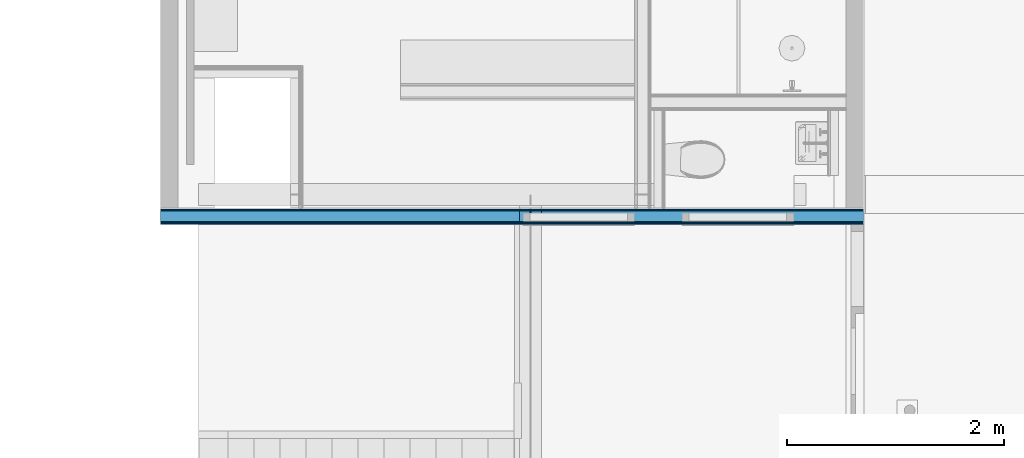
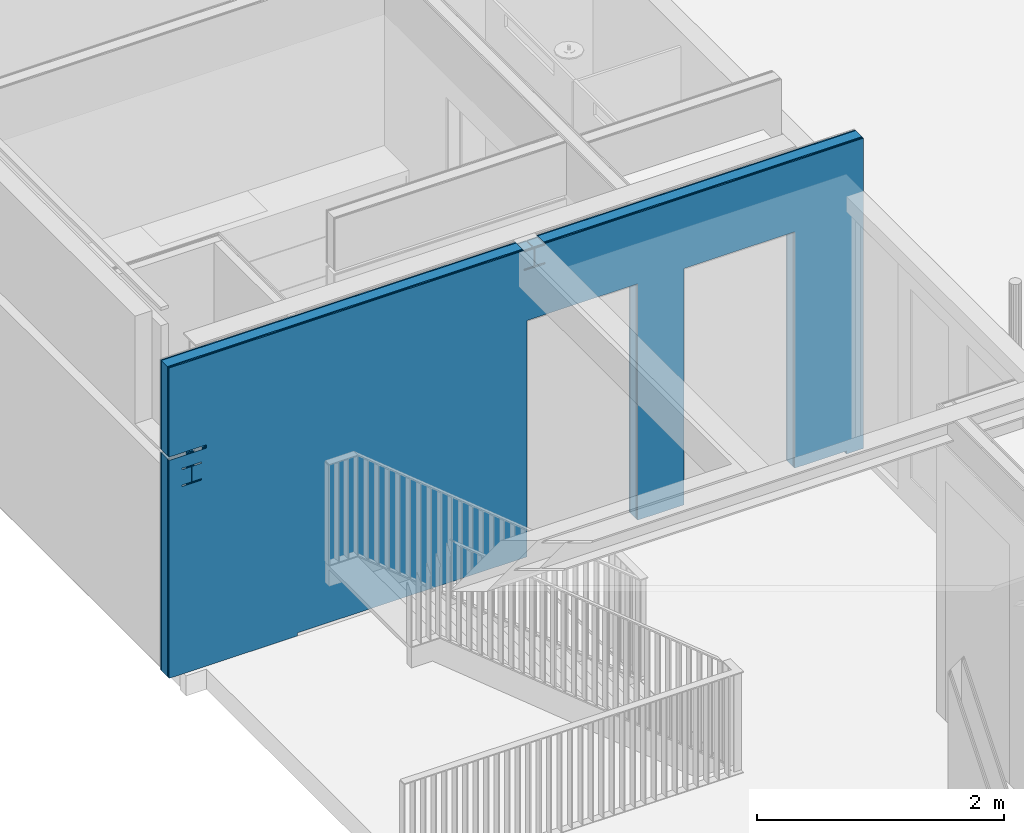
# One storey, part 18 of 35: 4 building element parts, 2 openings, 1 element without a shape of its own.
"""IFC2X3 building model written with IfcOpenShell, lengths in millimetres."""

import ifcopenshell
import ifcopenshell.guid

model = None  # the IFC model being written
_history = None  # IfcOwnerHistory: only IFC2X3 demands one
_inside = {}  # id of a spatial element -> (the spatial element, [elements in it])
_under = {}  # id of a project, library or spatial element -> (it, [spatial elements below it])
_declared = {}  # id of a project -> (the project, [libraries it declares])
_typed = {}  # id of a type object -> (the type object, [elements of that type])
_made_of = {}  # id of a material, layer set ... -> (it, [elements and type objects made of it])


def new_model(schema):
    """Start an empty IFC model of exactly this schema.

    Asked for "IFC4X3", IfcOpenShell would pick the latest addendum, in which some entities
    have other attributes; the version numbers below select the first issue.
    IFC2X3 requires an IfcOwnerHistory on every rooted entity: one is made here for all.
    """
    global model, _history
    if schema == "IFC4X3":
        model = ifcopenshell.file(schema_version=(4, 3, 0, 0))
    else:
        model = ifcopenshell.file(schema=schema)
    _inside.clear()
    _under.clear()
    _declared.clear()
    _typed.clear()
    _made_of.clear()
    _history = None
    if model.schema == "IFC2X3":
        org = make("IfcOrganization", Name="unknown")
        user = make(
            "IfcPersonAndOrganization",
            ThePerson=make("IfcPerson", FamilyName="unknown"),
            TheOrganization=org,
        )
        app = make(
            "IfcApplication",
            ApplicationDeveloper=org,
            Version="unknown",
            ApplicationFullName="unknown",
            ApplicationIdentifier="unknown",
        )
        _history = make(
            "IfcOwnerHistory",
            OwningUser=user,
            OwningApplication=app,
            ChangeAction="ADDED",
            CreationDate=0,
        )
    return model


def make(cls, **values):
    """One entity of the class cls with the attributes given. An attribute that is None is left unset."""
    return model.create_entity(
        cls, **{name: value for name, value in values.items() if value is not None}
    )


def entity(cls, *values):
    """Any entity or typed value of the class cls, its attributes in the order of the schema. None: left unset."""
    e = model.create_entity(cls)
    for i, value in enumerate(values):
        if value is not None:
            e[i] = value
    return e


def rooted(cls, **values):
    """An entity with a GlobalId (a new one), such as an element, a storey or a relation."""
    return make(cls, GlobalId=ifcopenshell.guid.new(), OwnerHistory=_history, **values)


def si_unit(unit_type, name, prefix=None):
    """IfcSIUnit, for example si_unit("LENGTHUNIT", "METRE", prefix="MILLI")."""
    return make("IfcSIUnit", UnitType=unit_type, Prefix=prefix, Name=name)


def converted_unit(unit_type, name, factor, base, dimensions=None, offset=None):
    """IfcConversionBasedUnit, such as the inch: factor (a typed value) times the base unit."""
    return make(
        "IfcConversionBasedUnit"
        if offset is None
        else "IfcConversionBasedUnitWithOffset",
        ConversionOffset=offset,
        Dimensions=None
        if dimensions is None
        else entity("IfcDimensionalExponents", *dimensions),
        UnitType=unit_type,
        Name=name,
        ConversionFactor=make(
            "IfcMeasureWithUnit", ValueComponent=factor, UnitComponent=base
        ),
    )


def derived_unit(unit_type, elements):
    """IfcDerivedUnit: a product of units, each with its exponent."""
    return make(
        "IfcDerivedUnit",
        Elements=[
            make("IfcDerivedUnitElement", Unit=unit, Exponent=power)
            for unit, power in elements
        ],
        UnitType=unit_type,
    )


def money_unit(currency):
    """IfcMonetaryUnit."""
    return make("IfcMonetaryUnit", Currency=currency)


def assignment(units):
    """IfcUnitAssignment: the units of a project."""
    return None if units is None else make("IfcUnitAssignment", Units=units)


def point(xyz):
    """IfcCartesianPoint."""
    return None if xyz is None else make("IfcCartesianPoint", Coordinates=xyz)


def direction(xyz):
    """IfcDirection."""
    return None if xyz is None else make("IfcDirection", DirectionRatios=xyz)


def frame(location, z_axis=None, x_axis=None):
    """IfcAxis2Placement3D, a coordinate frame: its origin and axes. An axis left out is left unset."""
    return make(
        "IfcAxis2Placement3D",
        Location=point(location),
        Axis=direction(z_axis),
        RefDirection=direction(x_axis),
    )


def origin_with_axes():
    """The frame at (0, 0, 0) with the z axis (0, 0, 1) and the x axis (1, 0, 0) written out."""
    return frame((0.0, 0.0, 0.0), z_axis=(0.0, 0.0, 1.0), x_axis=(1.0, 0.0, 0.0))


def place(relative_to, where):
    """IfcLocalPlacement: puts the frame where relative to a parent placement (None: the world)."""
    return make(
        "IfcLocalPlacement", PlacementRelTo=relative_to, RelativePlacement=where
    )


def context(
    kind, dimensions, precision=None, world=None, true_north=None, identifier=None
):
    """IfcGeometricRepresentationContext, for example the 3D "Model" context."""
    return make(
        "IfcGeometricRepresentationContext",
        ContextIdentifier=identifier,
        ContextType=kind,
        CoordinateSpaceDimension=dimensions,
        Precision=precision,
        WorldCoordinateSystem=world,
        TrueNorth=true_north,
    )


def subcontext(parent, identifier, kind, view, scale=None):
    """IfcGeometricRepresentationSubContext, for example "Body" below "Model"."""
    return make(
        "IfcGeometricRepresentationSubContext",
        ContextIdentifier=identifier,
        ContextType=kind,
        ParentContext=parent,
        TargetScale=scale,
        TargetView=view,
    )


def project(units=None, contexts=None):
    """IfcProject with its units and contexts."""
    return rooted(
        "IfcProject",
        Name="project",
        RepresentationContexts=contexts,
        UnitsInContext=assignment(units),
    )


def spatial(cls, under=None, at=None, **own):
    """A site, building, storey or space (cls), placed at a placement, below another one or the project."""
    s = rooted(cls, ObjectPlacement=at, **own)
    if under is not None:
        _under.setdefault(under.id(), (under, []))[1].append(s)
    return s


def faces_of(points, faces, orient=None, outer=None):
    """IfcFace entities. A face is a list of loops; a loop is a list of indices into points, from 0.

    orient and outer hold one flag for each loop. By default every Orientation is true, the
    first loop of a face is its IfcFaceOuterBound and the others are IfcFaceBound.
    """
    made = []
    for i, loops in enumerate(faces):
        bounds = []
        for j, loop in enumerate(loops):
            is_outer = j == 0 if outer is None else outer[i][j]
            bounds.append(
                make(
                    "IfcFaceOuterBound" if is_outer else "IfcFaceBound",
                    Bound=make("IfcPolyLoop", Polygon=[points[k] for k in loop]),
                    Orientation=True if orient is None else orient[i][j],
                )
            )
        made.append(make("IfcFace", Bounds=bounds))
    return made


def faceted_brep(points, faces, orient=None, outer=None, voids=None):
    """IfcFacetedBrep: a solid bounded by flat faces; with voids (closed shells), ...WithVoids."""
    shared = [point(p) for p in points]
    hull = make("IfcClosedShell", CfsFaces=faces_of(shared, faces, orient, outer))
    if voids is None:
        return make("IfcFacetedBrep", Outer=hull)
    return make(
        "IfcFacetedBrepWithVoids",
        Outer=hull,
        Voids=[
            make(cls, CfsFaces=faces_of(shared, fs, o, b)) for cls, fs, o, b in voids
        ],
    )


def shape(context_of_items, identifier, shape_type, items):
    """IfcShapeRepresentation: the items that make up one representation, for example the "Body"."""
    return make(
        "IfcShapeRepresentation",
        ContextOfItems=context_of_items,
        RepresentationIdentifier=identifier,
        RepresentationType=shape_type,
        Items=items,
    )


def material(Name=None, Category=None):
    """IfcMaterial."""
    return make("IfcMaterial", Name=Name, Category=Category)


def made_of(thing, what):
    """Note that an element or type object is made of a material, layer set ...; save() writes the relation."""
    if what is not None:
        _made_of.setdefault(what.id(), (what, []))[1].append(thing)
    return thing


def type_object(cls, material=None, **own):
    """A type object (cls), such as IfcWallType, which elements share."""
    return made_of(rooted(cls, **own), material)


def element(
    cls,
    number,
    at=None,
    inside=None,
    cuts=None,
    type_object=None,
    material=None,
    context=None,
    identifier="Body",
    shape_type=None,
    held_by="IfcProductDefinitionShape",
    body=None,
    shapes=None,
    **own,
):
    """One element of the class cls, such as IfcWall. Its Tag is "e" and its number.

    at: its placement. inside: the storey or other place that contains it. cuts: it is an
    opening in that element (IfcRelVoidsElement). A single representation is given by context,
    identifier, shape_type and body (its items); several are given by shapes. held_by: the class
    of the entity that holds the representations. save() writes the other relations.
    """
    e = rooted(cls, Tag="e%d" % number, ObjectPlacement=at, **own)
    if body is not None:
        shapes = [shape(context, identifier, shape_type, body)]
    if shapes is not None:
        e.Representation = make(held_by, Representations=shapes)
    if inside is not None:
        _inside.setdefault(inside.id(), (inside, []))[1].append(e)
    if cuts is not None:
        rooted(
            "IfcRelVoidsElement", RelatingBuildingElement=cuts, RelatedOpeningElement=e
        )
    if type_object is not None:
        _typed.setdefault(type_object.id(), (type_object, []))[1].append(e)
    return made_of(e, material)


def aggregate(whole, parts):
    """IfcRelAggregates: a whole, such as a stair, and the parts it consists of."""
    return rooted("IfcRelAggregates", RelatingObject=whole, RelatedObjects=parts)


def save(model, path):
    """Write the relations noted so far, then the file.

    IfcRelAggregates (storeys below a building ...), IfcRelContainedInSpatialStructure (elements
    in a storey), IfcRelDefinesByType, IfcRelAssociatesMaterial and IfcRelDeclares: one each for
    every whole, place, type object, material and project.
    """
    for whole, parts in _under.values():
        aggregate(whole, parts)
    for where, things in _inside.values():
        rooted(
            "IfcRelContainedInSpatialStructure",
            RelatedElements=things,
            RelatingStructure=where,
        )
    for kind, things in _typed.values():
        rooted("IfcRelDefinesByType", RelatedObjects=things, RelatingType=kind)
    for what, things in _made_of.values():
        rooted("IfcRelAssociatesMaterial", RelatedObjects=things, RelatingMaterial=what)
    for by, libraries in _declared.values():
        rooted("IfcRelDeclares", RelatingContext=by, RelatedDefinitions=libraries)
    model.write(path)


model = new_model("IFC2X3")

# Units and contexts
model_context = context("Model", 3, precision=0.01, world=origin_with_axes(), true_north=direction((0.0, 1.0)))
body_context = subcontext(model_context, "Body", "Model", "MODEL_VIEW")
ifc_project = project(units=[si_unit("LENGTHUNIT", "METRE", prefix="MILLI"), si_unit("AREAUNIT", "SQUARE_METRE"), si_unit("VOLUMEUNIT", "CUBIC_METRE"), converted_unit("PLANEANGLEUNIT", "DEGREE", entity("IfcPlaneAngleMeasure", 0.0174532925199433), si_unit("PLANEANGLEUNIT", "RADIAN"), dimensions=[0, 0, 0, 0, 0, 0, 0]), money_unit("EUR"), converted_unit("TIMEUNIT", "Year", entity("IfcTimeMeasure", 31557600.0), si_unit("TIMEUNIT", "SECOND"), dimensions=[0, 0, 1, 0, 0, 0, 0]), si_unit("MASSUNIT", "GRAM", prefix="KILO"), si_unit("THERMODYNAMICTEMPERATUREUNIT", "DEGREE_CELSIUS"), si_unit("LUMINOUSINTENSITYUNIT", "LUMEN"), si_unit("ENERGYUNIT", "JOULE", prefix="MEGA"), derived_unit("THERMALCONDUCTANCEUNIT", [(si_unit("POWERUNIT", "WATT"), 1), (si_unit("LENGTHUNIT", "METRE"), -1), (si_unit("THERMODYNAMICTEMPERATUREUNIT", "KELVIN"), -1)]), derived_unit("SPECIFICHEATCAPACITYUNIT", [(si_unit("ENERGYUNIT", "JOULE"), 1), (si_unit("MASSUNIT", "GRAM", prefix="KILO"), -1), (si_unit("THERMODYNAMICTEMPERATUREUNIT", "KELVIN"), -1)]), derived_unit("MASSDENSITYUNIT", [(si_unit("MASSUNIT", "GRAM", prefix="KILO"), 1), (si_unit("VOLUMEUNIT", "CUBIC_METRE"), -1)])], contexts=[model_context])

# Site, building, storey
site_placement = place(None, origin_with_axes())
site = spatial("IfcSite", under=ifc_project, at=site_placement, Name="<site naam>", CompositionType="ELEMENT")
building_placement = place(site_placement, origin_with_axes())
building = spatial("IfcBuilding", under=site, at=building_placement, Name="<Naam gebouw>", CompositionType="ELEMENT")
storey_placement = place(building_placement, frame((0.0, 0.0, 6345.0), z_axis=(0.0, 0.0, 1.0), x_axis=(1.0, 0.0, 0.0)))
storey = spatial("IfcBuildingStorey", under=building, at=storey_placement, Name="02 2e tussenverdieping", CompositionType="ELEMENT", Elevation=6345.0)

# Wall, openings, building element parts
wall_type = type_object("IfcWallType", Name="MS-01 GF 150 ECO DGS/2.100.2.A 150", PredefinedType="NOTDEFINED")
wall_placement = place(storey_placement, frame((58317.78284470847, 11725.00000000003, -30.00000000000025), z_axis=(0.0, 0.0, 1.0), x_axis=(-1.0, 0.0, 0.0)))
wall = element("IfcWall", 1, at=wall_placement, inside=storey, type_object=wall_type, Name="22_Binnenwand_MS-01")
opening_1_placement = place(wall_placement, frame((1159.782844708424, 0.0, 0.0), z_axis=(0.0, 0.0, 1.0), x_axis=(1.0, 0.0, 0.0)))
element("IfcOpeningElement", 2, at=opening_1_placement, cuts=wall, Name="22_BI-A-06_305", context=body_context, shape_type="Brep", body=[
    faceted_brep([(-517.000000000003, -151.0000000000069, 2366.999999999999), (-517.000000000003, -151.0000000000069, 0.0), (517.000000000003, -151.0000000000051, 0.0), (517.000000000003, -151.0000000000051, 2366.999999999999), (-517.000000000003, 0.9999999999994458, 2366.999999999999), (-517.000000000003, 0.9999999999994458, 0.0), (517.000000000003, 1.000000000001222, 0.0), (517.000000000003, 1.000000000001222, 2366.999999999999)], [[[0, 1, 2, 3]], [[4, 5, 1, 0]], [[5, 6, 2, 1]], [[6, 7, 3, 2]], [[7, 4, 0, 3]], [[6, 5, 4, 7]]]),
])
opening_2_placement = place(wall_placement, frame((2629.747141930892, 0.0, 0.0), z_axis=(0.0, 0.0, 1.0), x_axis=(1.0, 0.0, 0.0)))
element("IfcOpeningElement", 3, at=opening_2_placement, cuts=wall, Name="22_BI-A-06_305", context=body_context, shape_type="Brep", body=[
    faceted_brep([(-517.000000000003, -151.0000000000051, 2366.999999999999), (-517.000000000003, -151.0000000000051, 0.0), (517.000000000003, -151.0000000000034, 0.0), (517.000000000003, -151.0000000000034, 2366.999999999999), (-517.000000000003, 1.000000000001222, 2366.999999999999), (-517.000000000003, 1.000000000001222, 0.0), (517.000000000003, 1.000000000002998, 0.0), (517.000000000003, 1.000000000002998, 2366.999999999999)], [[[0, 1, 2, 3]], [[4, 5, 1, 0]], [[5, 6, 2, 1]], [[6, 7, 3, 2]], [[7, 4, 0, 3]], [[6, 5, 4, 7]]]),
])
ifc_material_1 = material(Name="gipsplaat")
building_element_part_1_placement = place(wall_placement, origin_with_axes())
building_element_part_1 = element("IfcBuildingElementPart", 4, at=building_element_part_1_placement, material=ifc_material_1, Name="gipsplaat", context=body_context, shape_type="Brep", body=[
    faceted_brep([(3080.184486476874, -1.814959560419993e-05, 3052.999988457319), (3175.684489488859, -1.814959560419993e-05, 3052.999993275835), (3175.684489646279, 0.0, 3068.00000071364), (6492.782844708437, 0.0, 3068.000000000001), (6492.782844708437, 0.0, 2188.0), (6143.382844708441, 0.0, 2188.0), (6143.382805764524, 0.0, 2185.0), (6143.382805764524, 0.0, 2155.000000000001), (6492.782844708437, 0.0, 2155.000000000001), (6492.782844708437, 0.0, 0.0), (5292.782844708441, -1.814959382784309e-05, 0.0), (5292.782844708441, -1.814959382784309e-05, 30.00000000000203), (3223.161026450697, 0.0, 30.00000000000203), (3146.747120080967, 7.222251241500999e-06, 30.00000000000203), (3146.747120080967, 7.222251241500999e-06, 33.00000000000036), (2112.747137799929, 7.222249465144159e-06, 33.00000000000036), (2112.747137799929, 7.222249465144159e-06, 30.00000000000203), (1676.782887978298, -2.179673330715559e-06, 30.00000000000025), (1676.782887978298, -2.179673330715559e-06, 33.00000000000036), (642.7828803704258, -2.179675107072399e-06, 33.00000000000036), (642.7828803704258, -2.179675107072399e-06, 30.00000000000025), (160.0002409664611, 0.0, 30.00000000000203), (160.0002409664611, 0.0, 0.0), (0.0, 0.0, 0.0), (0.0, 0.0, 3068.000000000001), (2975.684483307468, 0.0, 3068.00000071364), (2975.684483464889, -1.814959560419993e-05, 3052.999993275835), (3071.184486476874, -1.814959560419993e-05, 3052.999988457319), (3071.184486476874, -1.814959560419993e-05, 2883.000003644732), (2975.684483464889, -1.814959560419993e-05, 2882.999999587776), (2975.684483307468, -1.814959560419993e-05, 2867.99999214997), (3175.684489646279, -1.814959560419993e-05, 2867.99999214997), (3175.684489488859, -1.814959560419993e-05, 2882.999999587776), (3080.184486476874, -1.814959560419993e-05, 2883.000003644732), (6285.133011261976, -1.814959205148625e-05, 2020.99993879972), (6370.88302331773, -1.814959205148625e-05, 2020.99993879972), (6370.883025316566, -1.814959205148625e-05, 2035.000018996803), (6190.882997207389, -1.814959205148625e-05, 2035.000018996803), (6190.882999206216, -1.814959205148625e-05, 2020.99993879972), (6276.633011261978, -1.814959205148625e-05, 2020.99993879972), (6276.633011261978, -1.814959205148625e-05, 1869.000038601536), (6190.882999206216, -1.814959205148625e-05, 1869.000038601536), (6190.882997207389, -1.814959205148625e-05, 1854.999958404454), (6370.883025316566, -1.814959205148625e-05, 1854.999958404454), (6370.88302331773, -1.814959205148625e-05, 1869.000038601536), (6285.133011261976, -1.814959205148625e-05, 1869.000038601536), (3080.184486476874, -12.49999999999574, 3052.999988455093), (3175.684489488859, -12.49999999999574, 3052.999993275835), (3175.684489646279, -12.49999999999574, 3068.00000071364), (6492.782844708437, -12.49999999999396, 3068.000000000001), (6492.782844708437, -12.49999999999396, 2188.0), (6143.382844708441, -12.49999999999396, 2188.0), (6143.382805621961, -12.49999999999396, 2185.0), (6143.382805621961, -12.49999999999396, 2155.000000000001), (6492.782844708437, -12.49999999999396, 2155.000000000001), (6492.782844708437, -12.49999999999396, 0.0), (5292.782844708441, -12.49999999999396, 0.0), (5292.782844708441, -12.49999999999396, 30.00000000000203), (3146.747120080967, -12.49999999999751, 30.00000000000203), (3146.747120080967, -12.49999999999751, 33.00000000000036), (2112.747137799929, -12.49999999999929, 33.00000000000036), (2112.747137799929, -12.49999999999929, 30.00000000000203), (1676.782887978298, -12.49999999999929, 30.00000000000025), (1676.782887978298, -12.49999999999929, 33.00000000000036), (642.7828803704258, -12.50000000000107, 33.00000000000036), (642.7828803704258, -12.50000000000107, 30.00000000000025), (160.0002409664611, -12.50000000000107, 30.00000000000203), (160.0002409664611, -12.49999999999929, 0.0), (0.0, -12.49999999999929, 0.0), (0.0, -12.49999999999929, 3068.000000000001), (2975.684483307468, -12.49999999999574, 3068.00000071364), (2975.684483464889, -12.49999999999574, 3052.999993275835), (3071.184486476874, -12.49999999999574, 3052.999988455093), (3071.184486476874, -12.49999999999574, 2883.000003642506), (2975.684483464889, -12.49999999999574, 2882.999999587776), (2975.684483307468, -12.49999999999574, 2867.99999214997), (3175.684489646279, -12.49999999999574, 2867.99999214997), (3175.684489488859, -12.49999999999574, 2882.999999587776), (3080.184486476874, -12.49999999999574, 2883.000003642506), (6285.133011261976, -12.49999999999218, 2020.99993879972), (6370.88302331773, -12.49999999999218, 2020.99993879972), (6370.883025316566, -12.49999999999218, 2035.000018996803), (6190.882997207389, -12.49999999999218, 2035.000018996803), (6190.882999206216, -12.49999999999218, 2020.99993879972), (6276.633011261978, -12.49999999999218, 2020.99993879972), (6276.633011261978, -12.49999999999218, 1869.000038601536), (6190.882999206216, -12.49999999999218, 1869.000038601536), (6190.882997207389, -12.49999999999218, 1854.999958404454), (6370.883025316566, -12.49999999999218, 1854.999958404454), (6370.88302331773, -12.49999999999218, 1869.000038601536), (6285.133011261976, -12.49999999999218, 1869.000038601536)], [[[0, 1, 2, 3, 4, 5, 6, 7, 8, 9, 10, 11, 12, 13, 14, 15, 16, 17, 18, 19, 20, 21, 22, 23, 24, 25, 26, 27, 28, 29, 30, 31, 32, 33], [34, 35, 36, 37, 38, 39, 40, 41, 42, 43, 44, 45]], [[0, 46, 47, 1]], [[1, 47, 48, 2]], [[3, 2, 48, 49]], [[3, 49, 50, 4]], [[50, 51, 5, 4]], [[5, 51, 52, 6]], [[53, 7, 6, 52]], [[8, 7, 53, 54]], [[55, 9, 8, 54]], [[9, 55, 56, 10]], [[11, 10, 56, 57]], [[58, 13, 12, 11, 57]], [[59, 14, 13, 58]], [[15, 14, 59, 60]], [[15, 60, 61, 16]], [[16, 61, 62, 17]], [[18, 17, 62, 63]], [[19, 18, 63, 64]], [[20, 19, 64, 65]], [[66, 21, 20, 65]], [[22, 21, 66, 67]], [[68, 23, 22, 67]], [[68, 69, 24, 23]], [[69, 70, 25, 24]], [[26, 25, 70, 71]], [[26, 71, 72, 27]], [[27, 72, 73, 28]], [[28, 73, 74, 29]], [[29, 74, 75, 30]], [[30, 75, 76, 31]], [[31, 76, 77, 32]], [[32, 77, 78, 33]], [[33, 78, 46, 0]], [[34, 79, 80, 35]], [[35, 80, 81, 36]], [[36, 81, 82, 37]], [[37, 82, 83, 38]], [[38, 83, 84, 39]], [[39, 84, 85, 40]], [[40, 85, 86, 41]], [[41, 86, 87, 42]], [[42, 87, 88, 43]], [[43, 88, 89, 44]], [[44, 89, 90, 45]], [[45, 90, 79, 34]], [[73, 72, 71, 70, 69, 68, 67, 66, 65, 64, 63, 62, 61, 60, 59, 58, 57, 56, 55, 54, 53, 52, 51, 50, 49, 48, 47, 46, 78, 77, 76, 75, 74], [85, 84, 83, 82, 81, 80, 79, 90, 89, 88, 87, 86]]]),
])
building_element_part_2_placement = place(wall_placement, origin_with_axes())
building_element_part_2 = element("IfcBuildingElementPart", 5, at=building_element_part_2_placement, material=ifc_material_1, Name="gipsplaat", context=body_context, shape_type="Brep", body=[
    faceted_brep([(3080.184486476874, -12.49999999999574, 3052.999988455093), (3175.684489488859, -12.49999999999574, 3052.999993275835), (3175.684489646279, -12.49999999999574, 3068.00000071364), (6492.782844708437, -12.49999999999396, 3068.000000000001), (6492.782844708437, -12.49999999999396, 2188.0), (6143.382844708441, -12.49999999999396, 2188.0), (6143.382805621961, -12.49999999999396, 2185.0), (6143.382805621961, -12.49999999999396, 2155.000000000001), (6492.782844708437, -12.49999999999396, 2155.000000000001), (6492.782844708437, -12.49999999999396, 0.0), (5292.782844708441, -12.49999999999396, 0.0), (5292.782844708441, -12.49999999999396, 30.00000000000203), (3146.747120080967, -12.49999999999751, 30.00000000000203), (3146.747120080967, -12.49999999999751, 33.00000000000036), (2112.747137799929, -12.49999999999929, 33.00000000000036), (2112.747137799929, -12.49999999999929, 30.00000000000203), (1676.782887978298, -12.49999999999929, 30.00000000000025), (1676.782887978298, -12.49999999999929, 33.00000000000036), (642.7828803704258, -12.50000000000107, 33.00000000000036), (642.7828803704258, -12.50000000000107, 30.00000000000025), (160.0002409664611, -12.50000000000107, 30.00000000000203), (160.0002409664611, -12.49999999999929, 0.0), (0.0, -12.49999999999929, 0.0), (0.0, -12.49999999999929, 3068.000000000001), (2975.684483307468, -12.49999999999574, 3068.00000071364), (2975.684483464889, -12.49999999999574, 3052.999993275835), (3071.184486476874, -12.49999999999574, 3052.999988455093), (3071.184486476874, -12.49999999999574, 2883.000003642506), (2975.684483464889, -12.49999999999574, 2882.999999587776), (2975.684483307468, -12.49999999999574, 2867.99999214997), (3175.684489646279, -12.49999999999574, 2867.99999214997), (3175.684489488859, -12.49999999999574, 2882.999999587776), (3080.184486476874, -12.49999999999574, 2883.000003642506), (6285.133011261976, -12.49999999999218, 2020.99993879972), (6370.88302331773, -12.49999999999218, 2020.99993879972), (6370.883025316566, -12.49999999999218, 2035.000018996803), (6190.882997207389, -12.49999999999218, 2035.000018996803), (6190.882999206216, -12.49999999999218, 2020.99993879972), (6276.633011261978, -12.49999999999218, 2020.99993879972), (6276.633011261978, -12.49999999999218, 1869.000038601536), (6190.882999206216, -12.49999999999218, 1869.000038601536), (6190.882997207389, -12.49999999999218, 1854.999958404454), (6370.883025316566, -12.49999999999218, 1854.999958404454), (6370.88302331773, -12.49999999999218, 1869.000038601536), (6285.133011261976, -12.49999999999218, 1869.000038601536), (3080.184486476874, -24.99999999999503, 3052.99998845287), (3175.684489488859, -24.99999999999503, 3052.999993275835), (3175.684489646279, -24.9999999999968, 3068.00000071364), (6492.782844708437, -24.99999999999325, 3068.000000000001), (6492.782844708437, -24.99999999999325, 2188.0), (6143.382844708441, -24.99999999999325, 2188.0), (6143.382805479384, -24.99999999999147, 2185.0), (6143.382805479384, -24.99999999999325, 2155.000000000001), (6492.782844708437, -24.99999999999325, 2155.000000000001), (6492.782844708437, -24.99999999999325, 0.0), (5292.782844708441, -24.99999999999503, 0.0), (5292.782844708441, -24.99999999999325, 30.00000000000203), (3146.747120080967, -24.9999999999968, 30.00000000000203), (3146.747120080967, -24.9999999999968, 33.00000000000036), (2112.747137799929, -24.99999999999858, 33.00000000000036), (2112.747137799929, -24.99999999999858, 30.00000000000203), (1676.782887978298, -24.99999999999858, 30.00000000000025), (1676.782887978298, -24.99999999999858, 33.00000000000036), (642.7828803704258, -25.00000000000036, 33.00000000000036), (642.7828803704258, -25.00000000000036, 30.00000000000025), (160.0002409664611, -25.00000000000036, 30.00000000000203), (160.0002409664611, -25.00000000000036, 0.0), (0.0, -25.00000000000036, 0.0), (0.0, -25.00000000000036, 3068.000000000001), (2975.684483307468, -24.9999999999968, 3068.00000071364), (2975.684483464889, -24.99999999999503, 3052.999993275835), (3071.184486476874, -24.99999999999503, 3052.99998845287), (3071.184486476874, -24.99999999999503, 2883.000003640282), (2975.684483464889, -24.99999999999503, 2882.999999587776), (2975.684483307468, -24.99999999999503, 2867.99999214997), (3175.684489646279, -24.99999999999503, 2867.99999214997), (3175.684489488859, -24.99999999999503, 2882.999999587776), (3080.184486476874, -24.99999999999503, 2883.000003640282), (6285.133011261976, -24.99999999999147, 2020.99993879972), (6370.88302331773, -24.99999999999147, 2020.99993879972), (6370.883025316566, -24.99999999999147, 2035.000018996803), (6190.882997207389, -24.99999999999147, 2035.000018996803), (6190.882999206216, -24.99999999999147, 2020.99993879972), (6276.633011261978, -24.99999999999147, 2020.99993879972), (6276.633011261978, -24.99999999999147, 1869.000038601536), (6190.882999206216, -24.99999999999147, 1869.000038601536), (6190.882997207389, -24.99999999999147, 1854.999958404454), (6370.883025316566, -24.99999999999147, 1854.999958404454), (6370.88302331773, -24.99999999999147, 1869.000038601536), (6285.133011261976, -24.99999999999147, 1869.000038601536)], [[[0, 1, 2, 3, 4, 5, 6, 7, 8, 9, 10, 11, 12, 13, 14, 15, 16, 17, 18, 19, 20, 21, 22, 23, 24, 25, 26, 27, 28, 29, 30, 31, 32], [33, 34, 35, 36, 37, 38, 39, 40, 41, 42, 43, 44]], [[0, 45, 46, 1]], [[1, 46, 47, 2]], [[3, 2, 47, 48]], [[3, 48, 49, 4]], [[49, 50, 5, 4]], [[5, 50, 51, 6]], [[52, 7, 6, 51]], [[8, 7, 52, 53]], [[54, 9, 8, 53]], [[9, 54, 55, 10]], [[11, 10, 55, 56]], [[56, 57, 12, 11]], [[58, 13, 12, 57]], [[14, 13, 58, 59]], [[14, 59, 60, 15]], [[15, 60, 61, 16]], [[17, 16, 61, 62]], [[18, 17, 62, 63]], [[19, 18, 63, 64]], [[65, 20, 19, 64]], [[21, 20, 65, 66]], [[67, 22, 21, 66]], [[67, 68, 23, 22]], [[68, 69, 24, 23]], [[25, 24, 69, 70]], [[25, 70, 71, 26]], [[26, 71, 72, 27]], [[27, 72, 73, 28]], [[28, 73, 74, 29]], [[29, 74, 75, 30]], [[30, 75, 76, 31]], [[31, 76, 77, 32]], [[32, 77, 45, 0]], [[33, 78, 79, 34]], [[34, 79, 80, 35]], [[35, 80, 81, 36]], [[36, 81, 82, 37]], [[37, 82, 83, 38]], [[38, 83, 84, 39]], [[39, 84, 85, 40]], [[40, 85, 86, 41]], [[41, 86, 87, 42]], [[42, 87, 88, 43]], [[43, 88, 89, 44]], [[44, 89, 78, 33]], [[72, 71, 70, 69, 68, 67, 66, 65, 64, 63, 62, 61, 60, 59, 58, 57, 56, 55, 54, 53, 52, 51, 50, 49, 48, 47, 46, 45, 77, 76, 75, 74, 73], [84, 83, 82, 81, 80, 79, 78, 89, 88, 87, 86, 85]]]),
])
ifc_material_2 = material(Name="isolatie_steenwol LSW")
building_element_part_3_placement = place(wall_placement, origin_with_axes())
building_element_part_3 = element("IfcBuildingElementPart", 6, at=building_element_part_3_placement, material=ifc_material_2, Name="isolatie_steenwol LSW", context=body_context, shape_type="Brep", body=[
    faceted_brep([(3080.184486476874, -24.99999999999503, 3052.99998845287), (3175.684489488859, -24.99999999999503, 3052.999993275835), (3175.684489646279, -24.9999999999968, 3068.00000071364), (6492.782844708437, -24.99999999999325, 3068.000000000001), (6492.782844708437, -24.99999999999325, 2188.0), (6143.382844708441, -24.99999999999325, 2188.0), (6143.382805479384, -24.99999999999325, 2185.0), (6143.382805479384, -24.99999999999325, 2155.000000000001), (6492.782844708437, -24.99999999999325, 2155.000000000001), (6492.782844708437, -24.99999999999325, 0.0), (5292.782844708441, -24.99999999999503, 0.0), (5292.782844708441, -24.99999999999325, 30.00000000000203), (3146.747120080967, -24.9999999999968, 30.00000000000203), (3146.747120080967, -24.9999999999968, 33.00000000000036), (2112.747137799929, -24.99999999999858, 33.00000000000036), (2112.747137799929, -24.99999999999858, 30.00000000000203), (1676.782887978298, -24.99999999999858, 30.00000000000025), (1676.782887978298, -24.99999999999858, 33.00000000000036), (642.7828803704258, -25.00000000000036, 33.00000000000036), (642.7828803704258, -25.00000000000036, 30.00000000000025), (160.0002409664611, -25.00000000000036, 30.00000000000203), (160.0002409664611, -25.00000000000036, 0.0), (0.0, -25.00000000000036, 0.0), (0.0, -25.00000000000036, 3068.000000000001), (2975.684483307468, -24.9999999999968, 3068.00000071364), (2975.684483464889, -24.99999999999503, 3052.999993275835), (3071.184486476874, -24.99999999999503, 3052.99998845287), (3071.184486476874, -24.99999999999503, 2883.000003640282), (2975.684483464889, -24.99999999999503, 2882.999999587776), (2975.684483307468, -24.99999999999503, 2867.99999214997), (3175.684489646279, -24.99999999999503, 2867.99999214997), (3175.684489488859, -24.99999999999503, 2882.999999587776), (3080.184486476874, -24.99999999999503, 2883.000003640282), (6285.133011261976, -24.99999999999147, 2020.99993879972), (6370.88302331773, -24.99999999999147, 2020.99993879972), (6370.883025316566, -24.99999999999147, 2035.000018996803), (6190.882997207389, -24.99999999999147, 2035.000018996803), (6190.882999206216, -24.99999999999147, 2020.99993879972), (6276.633011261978, -24.99999999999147, 2020.99993879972), (6276.633011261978, -24.99999999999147, 1869.000038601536), (6190.882999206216, -24.99999999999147, 1869.000038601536), (6190.882997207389, -24.99999999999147, 1854.999958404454), (6370.883025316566, -24.99999999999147, 1854.999958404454), (6370.88302331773, -24.99999999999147, 1869.000038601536), (6285.133011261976, -24.99999999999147, 1869.000038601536), (3080.184486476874, -124.9999999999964, 3052.999988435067), (3175.684489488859, -124.9999999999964, 3052.999993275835), (3175.684489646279, -124.9999999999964, 3068.00000071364), (6492.782844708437, -124.9999999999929, 3068.000000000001), (6492.782844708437, -124.9999999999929, 2188.0), (6143.382844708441, -99.99999999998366, 2188.0), (6317.782844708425, -124.9999999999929, 2188.0), (6317.782844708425, -99.99999999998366, 2188.0), (6143.382804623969, -99.99999999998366, 2185.0), (6143.382804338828, -124.9999999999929, 2185.0), (6143.382804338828, -124.9999999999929, 2155.000000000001), (6492.782844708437, -124.9999999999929, 2155.000000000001), (6492.782844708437, -124.9999999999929, 0.0), (5292.782844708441, -124.9999999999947, 0.0), (5292.782844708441, -124.9999999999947, 30.00000000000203), (3146.747120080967, -124.9999999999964, 30.00000000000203), (3146.747120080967, -124.9999999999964, 33.00000000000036), (2112.747137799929, -124.9999999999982, 33.00000000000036), (2112.747137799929, -124.9999999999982, 30.00000000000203), (1676.782887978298, -124.9999999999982, 30.00000000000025), (1676.782887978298, -124.9999999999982, 33.00000000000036), (642.7828803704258, -125.0, 33.00000000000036), (642.7828803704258, -125.0, 30.00000000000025), (160.0002409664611, -125.0, 30.00000000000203), (160.0002409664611, -125.0, 0.0), (0.0, -125.0, 0.0), (0.0, -125.0, 3068.000000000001), (2975.684483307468, -124.9999999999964, 3068.00000071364), (2975.684483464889, -124.9999999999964, 3052.999993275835), (3071.184486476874, -124.9999999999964, 3052.999988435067), (3071.184486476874, -124.9999999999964, 2883.000003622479), (2975.684483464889, -124.9999999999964, 2882.999999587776), (2975.684483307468, -124.9999999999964, 2867.99999214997), (3175.684489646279, -124.9999999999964, 2867.99999214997), (3175.684489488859, -124.9999999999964, 2882.999999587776), (3080.184486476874, -124.9999999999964, 2883.000003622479), (6285.133011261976, -124.9999999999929, 2020.99993879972), (6370.88302331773, -124.9999999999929, 2020.99993879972), (6370.883025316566, -124.9999999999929, 2035.000018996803), (6190.882997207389, -124.9999999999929, 2035.000018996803), (6190.882999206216, -124.9999999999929, 2020.99993879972), (6276.633011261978, -124.9999999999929, 2020.99993879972), (6276.633011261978, -124.9999999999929, 1869.000038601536), (6190.882999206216, -124.9999999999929, 1869.000038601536), (6190.882997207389, -124.9999999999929, 1854.999958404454), (6370.883025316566, -124.9999999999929, 1854.999958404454), (6370.88302331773, -124.9999999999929, 1869.000038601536), (6285.133011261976, -124.9999999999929, 1869.000038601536), (6317.782844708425, -124.9999999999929, 2185.0), (6317.782844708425, -99.99999999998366, 2185.0)], [[[0, 1, 2, 3, 4, 5, 6, 7, 8, 9, 10, 11, 12, 13, 14, 15, 16, 17, 18, 19, 20, 21, 22, 23, 24, 25, 26, 27, 28, 29, 30, 31, 32], [33, 34, 35, 36, 37, 38, 39, 40, 41, 42, 43, 44]], [[0, 45, 46, 1]], [[1, 46, 47, 2]], [[3, 2, 47, 48]], [[3, 48, 49, 4]], [[50, 5, 4, 49, 51, 52]], [[5, 50, 53, 6]], [[6, 53, 54, 55, 7]], [[8, 7, 55, 56]], [[57, 9, 8, 56]], [[9, 57, 58, 10]], [[11, 10, 58, 59]], [[59, 60, 12, 11]], [[61, 13, 12, 60]], [[14, 13, 61, 62]], [[14, 62, 63, 15]], [[15, 63, 64, 16]], [[17, 16, 64, 65]], [[18, 17, 65, 66]], [[19, 18, 66, 67]], [[68, 20, 19, 67]], [[21, 20, 68, 69]], [[70, 22, 21, 69]], [[70, 71, 23, 22]], [[71, 72, 24, 23]], [[25, 24, 72, 73]], [[25, 73, 74, 26]], [[26, 74, 75, 27]], [[27, 75, 76, 28]], [[28, 76, 77, 29]], [[29, 77, 78, 30]], [[30, 78, 79, 31]], [[31, 79, 80, 32]], [[32, 80, 45, 0]], [[33, 81, 82, 34]], [[34, 82, 83, 35]], [[35, 83, 84, 36]], [[36, 84, 85, 37]], [[37, 85, 86, 38]], [[38, 86, 87, 39]], [[39, 87, 88, 40]], [[40, 88, 89, 41]], [[41, 89, 90, 42]], [[42, 90, 91, 43]], [[43, 91, 92, 44]], [[44, 92, 81, 33]], [[75, 74, 73, 72, 71, 70, 69, 68, 67, 66, 65, 64, 63, 62, 61, 60, 59, 58, 57, 56, 55, 54, 93, 51, 49, 48, 47, 46, 45, 80, 79, 78, 77, 76], [87, 86, 85, 84, 83, 82, 81, 92, 91, 90, 89, 88]], [[52, 51, 93, 94]], [[50, 52, 94, 53]], [[53, 94, 93, 54]]]),
])
building_element_part_4_placement = place(wall_placement, origin_with_axes())
building_element_part_4 = element("IfcBuildingElementPart", 7, at=building_element_part_4_placement, material=ifc_material_1, Name="gipsplaat", context=body_context, shape_type="Brep", body=[
    faceted_brep([(3080.184486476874, -124.9999999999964, 3052.999988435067), (3175.684489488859, -124.9999999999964, 3052.999993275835), (3175.684489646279, -124.9999999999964, 3068.00000071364), (6492.782844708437, -124.9999999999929, 3068.000000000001), (6492.782844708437, -124.9999999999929, 2188.0), (6317.782844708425, -124.9999999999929, 2188.0), (6317.782844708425, -124.9999999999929, 2185.0), (6143.382804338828, -124.9999999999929, 2185.0), (6143.382804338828, -124.9999999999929, 2155.000000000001), (6492.782844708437, -124.9999999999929, 2155.000000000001), (6492.782844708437, -124.9999999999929, 0.0), (5292.782844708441, -124.9999999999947, 0.0), (5292.782844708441, -124.9999999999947, 30.00000000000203), (3146.747120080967, -124.9999999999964, 30.00000000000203), (3146.747120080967, -124.9999999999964, 33.00000000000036), (2112.747137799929, -124.9999999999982, 33.00000000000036), (2112.747137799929, -124.9999999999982, 30.00000000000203), (1676.782887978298, -124.9999999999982, 30.00000000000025), (1676.782887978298, -124.9999999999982, 33.00000000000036), (642.7828803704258, -125.0, 33.00000000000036), (642.7828803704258, -125.0, 30.00000000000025), (160.0002409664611, -125.0, 30.00000000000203), (160.0002409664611, -125.0, 0.0), (0.0, -125.0, 0.0), (0.0, -125.0, 3068.000000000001), (2975.684483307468, -124.9999999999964, 3068.00000071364), (2975.684483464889, -124.9999999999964, 3052.999993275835), (3071.184486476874, -124.9999999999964, 3052.999988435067), (3071.184486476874, -124.9999999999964, 2883.000003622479), (2975.684483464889, -124.9999999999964, 2882.999999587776), (2975.684483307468, -124.9999999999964, 2867.99999214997), (3175.684489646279, -124.9999999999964, 2867.99999214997), (3175.684489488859, -124.9999999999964, 2882.999999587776), (3080.184486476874, -124.9999999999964, 2883.000003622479), (6285.133011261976, -124.9999999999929, 2020.99993879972), (6370.88302331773, -124.9999999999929, 2020.99993879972), (6370.883025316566, -124.9999999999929, 2035.000018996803), (6190.882997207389, -124.9999999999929, 2035.000018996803), (6190.882999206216, -124.9999999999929, 2020.99993879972), (6276.633011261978, -124.9999999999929, 2020.99993879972), (6276.633011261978, -124.9999999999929, 1869.000038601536), (6190.882999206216, -124.9999999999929, 1869.000038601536), (6190.882997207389, -124.9999999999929, 1854.999958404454), (6370.883025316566, -124.9999999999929, 1854.999958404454), (6370.88302331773, -124.9999999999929, 1869.000038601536), (6285.133011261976, -124.9999999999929, 1869.000038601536), (3080.184486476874, -137.4999999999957, 3052.999988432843), (3175.684489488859, -137.4999999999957, 3052.999993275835), (3175.684489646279, -137.4999999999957, 3068.00000071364), (6492.782844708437, -137.499999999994, 3068.000000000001), (6492.782844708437, -137.499999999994, 2188.0), (6317.782844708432, -137.499999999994, 2188.0), (6317.782844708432, -137.499999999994, 2185.0), (6143.382804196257, -137.499999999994, 2185.0), (6143.382804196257, -137.499999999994, 2155.000000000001), (6492.782844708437, -137.499999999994, 2155.000000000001), (6492.782844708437, -137.499999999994, 0.0), (5292.782844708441, -137.4999999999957, 0.0), (5292.782844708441, -137.499999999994, 30.00000000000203), (3146.747120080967, -137.4999999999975, 30.00000000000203), (3146.747120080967, -137.4999999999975, 33.00000000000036), (2112.747137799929, -137.4999999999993, 33.00000000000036), (2112.747137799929, -137.4999999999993, 30.00000000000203), (1676.782887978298, -137.4999999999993, 30.00000000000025), (1676.782887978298, -137.4999999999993, 33.00000000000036), (642.7828803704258, -137.5000000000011, 33.00000000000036), (642.7828803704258, -137.5000000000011, 30.00000000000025), (160.0002409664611, -137.5000000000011, 30.00000000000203), (160.0002409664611, -137.4999999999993, 0.0), (0.0, -137.4999999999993, 0.0), (0.0, -137.4999999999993, 3068.000000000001), (2975.684483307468, -137.4999999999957, 3068.00000071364), (2975.684483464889, -137.4999999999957, 3052.999993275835), (3071.184486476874, -137.4999999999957, 3052.999988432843), (3071.184486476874, -137.4999999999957, 2883.000003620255), (2975.684483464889, -137.4999999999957, 2882.999999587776), (2975.684483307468, -137.4999999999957, 2867.99999214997), (3175.684489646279, -137.4999999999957, 2867.99999214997), (3175.684489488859, -137.4999999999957, 2882.999999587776), (3080.184486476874, -137.4999999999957, 2883.000003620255), (6285.133011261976, -137.4999999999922, 2020.99993879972), (6370.88302331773, -137.4999999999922, 2020.99993879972), (6370.883025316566, -137.4999999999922, 2035.000018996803), (6190.882997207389, -137.4999999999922, 2035.000018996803), (6190.882999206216, -137.4999999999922, 2020.99993879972), (6276.633011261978, -137.4999999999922, 2020.99993879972), (6276.633011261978, -137.4999999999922, 1869.000038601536), (6190.882999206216, -137.4999999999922, 1869.000038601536), (6190.882997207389, -137.4999999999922, 1854.999958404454), (6370.883025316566, -137.4999999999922, 1854.999958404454), (6370.88302331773, -137.4999999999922, 1869.000038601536), (6285.133011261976, -137.4999999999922, 1869.000038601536)], [[[0, 1, 2, 3, 4, 5, 6, 7, 8, 9, 10, 11, 12, 13, 14, 15, 16, 17, 18, 19, 20, 21, 22, 23, 24, 25, 26, 27, 28, 29, 30, 31, 32, 33], [34, 35, 36, 37, 38, 39, 40, 41, 42, 43, 44, 45]], [[0, 46, 47, 1]], [[1, 47, 48, 2]], [[3, 2, 48, 49]], [[3, 49, 50, 4]], [[5, 4, 50, 51]], [[5, 51, 52, 6]], [[7, 6, 52, 53]], [[8, 7, 53, 54]], [[9, 8, 54, 55]], [[56, 10, 9, 55]], [[10, 56, 57, 11]], [[12, 11, 57, 58]], [[58, 59, 13, 12]], [[60, 14, 13, 59]], [[15, 14, 60, 61]], [[15, 61, 62, 16]], [[16, 62, 63, 17]], [[18, 17, 63, 64]], [[19, 18, 64, 65]], [[20, 19, 65, 66]], [[67, 21, 20, 66]], [[22, 21, 67, 68]], [[69, 23, 22, 68]], [[69, 70, 24, 23]], [[70, 71, 25, 24]], [[26, 25, 71, 72]], [[26, 72, 73, 27]], [[27, 73, 74, 28]], [[28, 74, 75, 29]], [[29, 75, 76, 30]], [[30, 76, 77, 31]], [[31, 77, 78, 32]], [[32, 78, 79, 33]], [[33, 79, 46, 0]], [[34, 80, 81, 35]], [[35, 81, 82, 36]], [[36, 82, 83, 37]], [[37, 83, 84, 38]], [[38, 84, 85, 39]], [[39, 85, 86, 40]], [[40, 86, 87, 41]], [[41, 87, 88, 42]], [[42, 88, 89, 43]], [[43, 89, 90, 44]], [[44, 90, 91, 45]], [[45, 91, 80, 34]], [[74, 73, 72, 71, 70, 69, 68, 67, 66, 65, 64, 63, 62, 61, 60, 59, 58, 57, 56, 55, 54, 53, 52, 51, 50, 49, 48, 47, 46, 79, 78, 77, 76, 75], [86, 85, 84, 83, 82, 81, 80, 91, 90, 89, 88, 87]]]),
])
aggregate(wall, [building_element_part_1, building_element_part_2, building_element_part_3, building_element_part_4])

save(model, "model.ifc")
